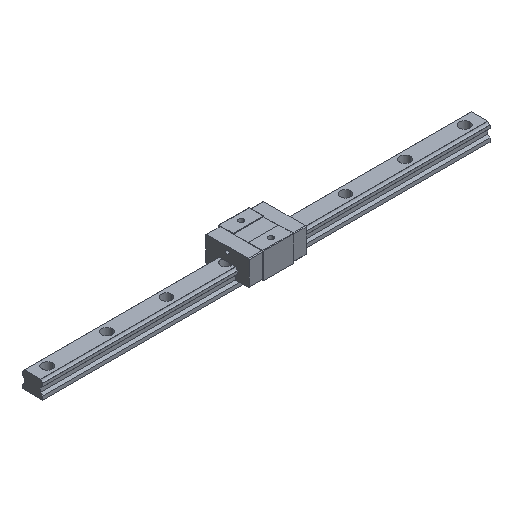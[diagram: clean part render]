
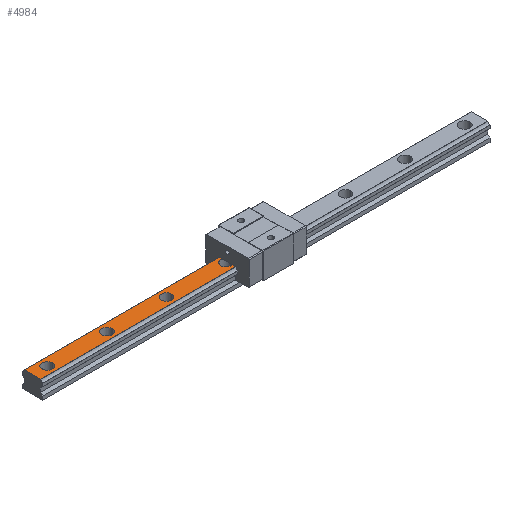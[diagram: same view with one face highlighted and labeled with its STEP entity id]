
A CAD part, isometric view. The second image highlights one B-rep face of the part: STEP entity #4984.
In plain terms, the highlighted planar face has unit normal (0, 0, 1).
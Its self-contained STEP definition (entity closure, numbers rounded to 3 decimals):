
#25 = DIRECTION ( 'NONE',  ( -1., 0., 0. ) ) ;
#48 = FACE_BOUND ( 'NONE', #2304, .T. ) ;
#62 = EDGE_CURVE ( 'NONE', #2617, #3849, #1346, .T. ) ;
#88 = AXIS2_PLACEMENT_3D ( 'NONE', #632, #1053, #2220 ) ;
#104 = DIRECTION ( 'NONE',  ( -1., 0., 0. ) ) ;
#217 = CARTESIAN_POINT ( 'NONE',  ( -47., 0., 23. ) ) ;
#220 = CARTESIAN_POINT ( 'NONE',  ( -300., 11.035, 23. ) ) ;
#240 = AXIS2_PLACEMENT_3D ( 'NONE', #501, #4410, #3253 ) ;
#280 = DIRECTION ( 'NONE',  ( 0., 0., -1. ) ) ;
#293 = VERTEX_POINT ( 'NONE', #2161 ) ;
#304 = CARTESIAN_POINT ( 'NONE',  ( -193., 0., 23. ) ) ;
#341 = CARTESIAN_POINT ( 'NONE',  ( -120., 0., 23. ) ) ;
#346 = ORIENTED_EDGE ( 'NONE', *, *, #1608, .T. ) ;
#358 = VERTEX_POINT ( 'NONE', #4544 ) ;
#368 = ORIENTED_EDGE ( 'NONE', *, *, #546, .T. ) ;
#382 = EDGE_CURVE ( 'NONE', #4343, #461, #2092, .T. ) ;
#405 = ORIENTED_EDGE ( 'NONE', *, *, #2994, .T. ) ;
#413 = AXIS2_PLACEMENT_3D ( 'NONE', #472, #2013, #1987 ) ;
#461 = VERTEX_POINT ( 'NONE', #5040 ) ;
#472 = CARTESIAN_POINT ( 'NONE',  ( 300., 0., 23. ) ) ;
#498 = VERTEX_POINT ( 'NONE', #304 ) ;
#501 = CARTESIAN_POINT ( 'NONE',  ( -280., 0., 23. ) ) ;
#546 = EDGE_CURVE ( 'NONE', #2280, #293, #3069, .T. ) ;
#632 = CARTESIAN_POINT ( 'NONE',  ( -40., 0., 23. ) ) ;
#705 = CARTESIAN_POINT ( 'NONE',  ( -40., 0., 23. ) ) ;
#910 = CARTESIAN_POINT ( 'NONE',  ( -38.2, -11.035, 23. ) ) ;
#980 = CARTESIAN_POINT ( 'NONE',  ( -287., 0., 23. ) ) ;
#1001 = CIRCLE ( 'NONE', #240, 7. ) ;
#1029 = EDGE_LOOP ( 'NONE', ( #1183, #346 ) ) ;
#1053 = DIRECTION ( 'NONE',  ( 0., 0., -1. ) ) ;
#1089 = LINE ( 'NONE', #1651, #4752 ) ;
#1183 = ORIENTED_EDGE ( 'NONE', *, *, #4936, .T. ) ;
#1213 = DIRECTION ( 'NONE',  ( 1., 0., 0. ) ) ;
#1223 = EDGE_CURVE ( 'NONE', #358, #2594, #3851, .T. ) ;
#1259 = AXIS2_PLACEMENT_3D ( 'NONE', #4038, #4786, #1266 ) ;
#1266 = DIRECTION ( 'NONE',  ( -1., 0., 0. ) ) ;
#1294 = CARTESIAN_POINT ( 'NONE',  ( -200., 0., 23. ) ) ;
#1313 = CARTESIAN_POINT ( 'NONE',  ( -38.2, -16.774, 23. ) ) ;
#1346 = CIRCLE ( 'NONE', #88, 7. ) ;
#1413 = CIRCLE ( 'NONE', #2086, 7. ) ;
#1608 = EDGE_CURVE ( 'NONE', #3875, #498, #4109, .T. ) ;
#1615 = AXIS2_PLACEMENT_3D ( 'NONE', #341, #3942, #3201 ) ;
#1627 = FACE_OUTER_BOUND ( 'NONE', #4030, .T. ) ;
#1649 = FACE_BOUND ( 'NONE', #1029, .T. ) ;
#1651 = CARTESIAN_POINT ( 'NONE',  ( 300., -11.035, 23. ) ) ;
#1717 = CARTESIAN_POINT ( 'NONE',  ( -207., 0., 23. ) ) ;
#1820 = CARTESIAN_POINT ( 'NONE',  ( -300., 0., 23. ) ) ;
#1874 = DIRECTION ( 'NONE',  ( -1., 0., 0. ) ) ;
#1912 = CIRCLE ( 'NONE', #1259, 7. ) ;
#1987 = DIRECTION ( 'NONE',  ( 0., -1., 0. ) ) ;
#2013 = DIRECTION ( 'NONE',  ( 0., 0., -1. ) ) ;
#2041 = DIRECTION ( 'NONE',  ( 0., 0., -1. ) ) ;
#2044 = DIRECTION ( 'NONE',  ( -1., 0., 0. ) ) ;
#2086 = AXIS2_PLACEMENT_3D ( 'NONE', #1294, #2041, #25 ) ;
#2087 = CIRCLE ( 'NONE', #4408, 7. ) ;
#2092 = LINE ( 'NONE', #1313, #2759 ) ;
#2161 = CARTESIAN_POINT ( 'NONE',  ( -300., -11.035, 23. ) ) ;
#2176 = EDGE_CURVE ( 'NONE', #461, #2617, #2087, .T. ) ;
#2182 = CARTESIAN_POINT ( 'NONE',  ( -38.2, 11.035, 23. ) ) ;
#2220 = DIRECTION ( 'NONE',  ( -1., 0., 0. ) ) ;
#2280 = VERTEX_POINT ( 'NONE', #220 ) ;
#2304 = EDGE_LOOP ( 'NONE', ( #3199, #4254 ) ) ;
#2335 = ORIENTED_EDGE ( 'NONE', *, *, #2898, .T. ) ;
#2381 = LINE ( 'NONE', #3521, #3080 ) ;
#2449 = ORIENTED_EDGE ( 'NONE', *, *, #4921, .T. ) ;
#2493 = EDGE_CURVE ( 'NONE', #293, #4343, #1089, .T. ) ;
#2497 = DIRECTION ( 'NONE',  ( 0., -1., 0. ) ) ;
#2515 = VECTOR ( 'NONE', #2685, 1000. ) ;
#2526 = CARTESIAN_POINT ( 'NONE',  ( -273., 0., 23. ) ) ;
#2554 = CARTESIAN_POINT ( 'NONE',  ( -38.2, 6.765, 23. ) ) ;
#2594 = VERTEX_POINT ( 'NONE', #4543 ) ;
#2617 = VERTEX_POINT ( 'NONE', #217 ) ;
#2685 = DIRECTION ( 'NONE',  ( 0., -1., 0. ) ) ;
#2690 = AXIS2_PLACEMENT_3D ( 'NONE', #4896, #4495, #104 ) ;
#2740 = EDGE_CURVE ( 'NONE', #3146, #3849, #4482, .T. ) ;
#2759 = VECTOR ( 'NONE', #4438, 1000. ) ;
#2817 = DIRECTION ( 'NONE',  ( -1., 0., 0. ) ) ;
#2898 = EDGE_CURVE ( 'NONE', #3146, #2280, #2381, .T. ) ;
#2994 = EDGE_CURVE ( 'NONE', #4373, #4766, #4006, .T. ) ;
#3069 = LINE ( 'NONE', #1820, #2515 ) ;
#3080 = VECTOR ( 'NONE', #2817, 1000. ) ;
#3133 = ORIENTED_EDGE ( 'NONE', *, *, #2493, .T. ) ;
#3146 = VERTEX_POINT ( 'NONE', #2182 ) ;
#3199 = ORIENTED_EDGE ( 'NONE', *, *, #1223, .T. ) ;
#3201 = DIRECTION ( 'NONE',  ( -1., 0., 0. ) ) ;
#3253 = DIRECTION ( 'NONE',  ( -1., 0., 0. ) ) ;
#3278 = FACE_BOUND ( 'NONE', #4977, .T. ) ;
#3521 = CARTESIAN_POINT ( 'NONE',  ( 300., 11.035, 23. ) ) ;
#3849 = VERTEX_POINT ( 'NONE', #2554 ) ;
#3851 = CIRCLE ( 'NONE', #1615, 7. ) ;
#3875 = VERTEX_POINT ( 'NONE', #1717 ) ;
#3888 = ORIENTED_EDGE ( 'NONE', *, *, #382, .T. ) ;
#3938 = ORIENTED_EDGE ( 'NONE', *, *, #2176, .T. ) ;
#3942 = DIRECTION ( 'NONE',  ( 0., 0., -1. ) ) ;
#4006 = CIRCLE ( 'NONE', #4854, 7. ) ;
#4021 = CARTESIAN_POINT ( 'NONE',  ( -280., 0., 23. ) ) ;
#4030 = EDGE_LOOP ( 'NONE', ( #3133, #3888, #3938, #4371, #4036, #2335, #368 ) ) ;
#4036 = ORIENTED_EDGE ( 'NONE', *, *, #2740, .F. ) ;
#4038 = CARTESIAN_POINT ( 'NONE',  ( -120., 0., 23. ) ) ;
#4085 = VECTOR ( 'NONE', #2497, 1000. ) ;
#4090 = CARTESIAN_POINT ( 'NONE',  ( -38.2, -11.035, 23. ) ) ;
#4097 = PLANE ( 'NONE',  #413 ) ;
#4109 = CIRCLE ( 'NONE', #2690, 7. ) ;
#4254 = ORIENTED_EDGE ( 'NONE', *, *, #5016, .T. ) ;
#4331 = DIRECTION ( 'NONE',  ( 0., 0., -1. ) ) ;
#4343 = VERTEX_POINT ( 'NONE', #4090 ) ;
#4371 = ORIENTED_EDGE ( 'NONE', *, *, #62, .T. ) ;
#4373 = VERTEX_POINT ( 'NONE', #2526 ) ;
#4408 = AXIS2_PLACEMENT_3D ( 'NONE', #705, #280, #1874 ) ;
#4410 = DIRECTION ( 'NONE',  ( 0., 0., -1. ) ) ;
#4438 = DIRECTION ( 'NONE',  ( 0., 1., 0. ) ) ;
#4482 = LINE ( 'NONE', #910, #4085 ) ;
#4495 = DIRECTION ( 'NONE',  ( 0., 0., -1. ) ) ;
#4543 = CARTESIAN_POINT ( 'NONE',  ( -127., 0., 23. ) ) ;
#4544 = CARTESIAN_POINT ( 'NONE',  ( -113., 0., 23. ) ) ;
#4752 = VECTOR ( 'NONE', #1213, 1000. ) ;
#4766 = VERTEX_POINT ( 'NONE', #980 ) ;
#4786 = DIRECTION ( 'NONE',  ( 0., 0., -1. ) ) ;
#4854 = AXIS2_PLACEMENT_3D ( 'NONE', #4021, #4331, #2044 ) ;
#4896 = CARTESIAN_POINT ( 'NONE',  ( -200., 0., 23. ) ) ;
#4921 = EDGE_CURVE ( 'NONE', #4766, #4373, #1001, .T. ) ;
#4936 = EDGE_CURVE ( 'NONE', #498, #3875, #1413, .T. ) ;
#4977 = EDGE_LOOP ( 'NONE', ( #405, #2449 ) ) ;
#4984 = ADVANCED_FACE ( 'NONE', ( #48, #1649, #3278, #1627 ), #4097, .F. ) ;
#5016 = EDGE_CURVE ( 'NONE', #2594, #358, #1912, .T. ) ;
#5040 = CARTESIAN_POINT ( 'NONE',  ( -38.2, -6.765, 23. ) ) ;
